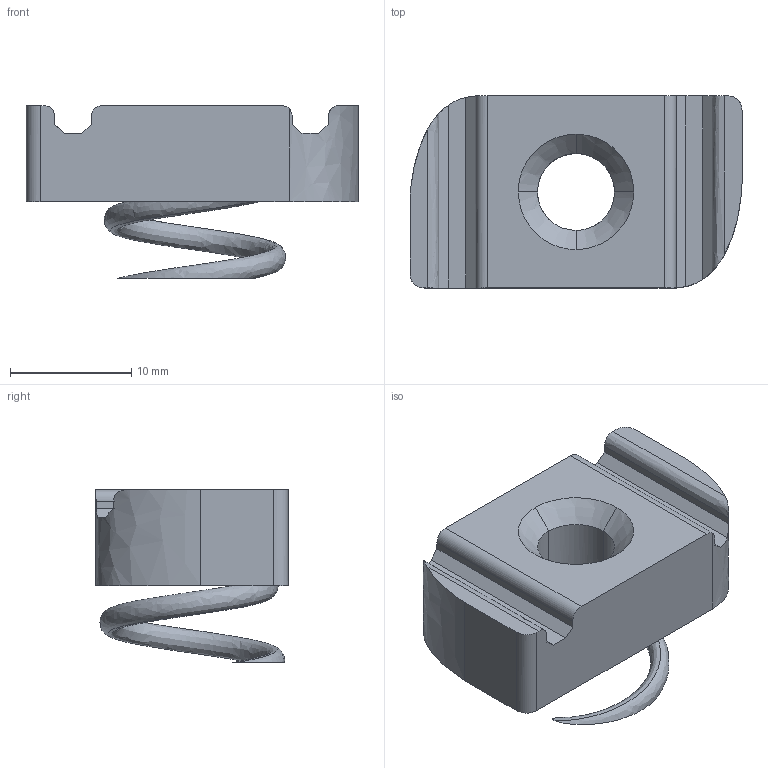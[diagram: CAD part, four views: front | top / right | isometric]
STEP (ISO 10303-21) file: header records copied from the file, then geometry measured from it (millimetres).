
FILE_DESCRIPTION(('TurboCAD Mac Pro'),'Build 980');
FILE_NAME('A4006-1420.stp',' ',(''),(''),'ACIS Interop','IMSI','TurboCAD Mac Pro BY IMSI, INCORPORATED');
FILE_SCHEMA(('automotive_design'));
Length unit declared in the file: inch
Products named in the file (1): 1
Bounding box: 27.43 x 15.88 x 14.28 mm (x, y, z)
Volume: 2902.1 mm3; surface area: 1838.9 mm2
Topology: 1 solids, 1 shells, 37 faces, 98 edges, 64 vertices
Faces by surface type: plane 19, bspline 18
Entity records: 2512 total; most frequent: CARTESIAN_POINT 1422, ORIENTED_EDGE 196, EDGE_CURVE 98, DIRECTION 88, VERTEX_POINT 64, B_SPLINE_CURVE_WITH_KNOTS 50, LINE 48, VECTOR 48
